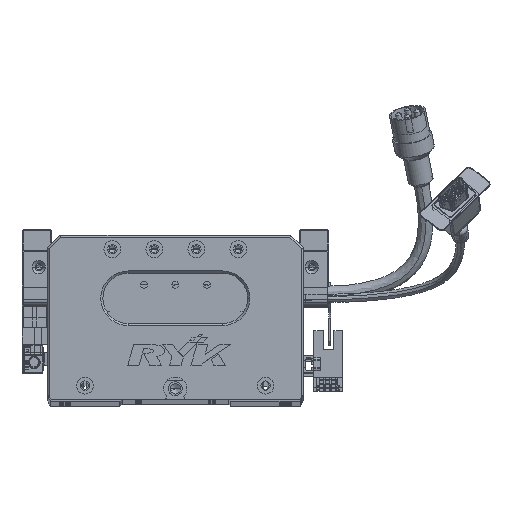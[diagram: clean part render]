
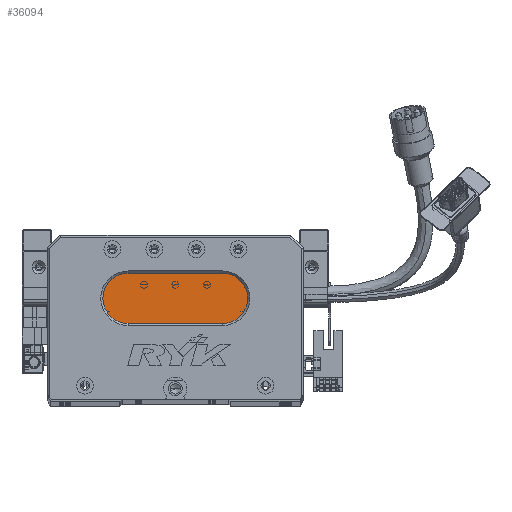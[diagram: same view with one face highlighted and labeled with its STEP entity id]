
A CAD part, top view. The second image highlights one B-rep face of the part: STEP entity #36094.
In plain terms, the highlighted planar face has unit normal (0, 0, 1) as drawn and (0, 0, -1) by its records, which use the part's own axes.
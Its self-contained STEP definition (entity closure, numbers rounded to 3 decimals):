
#164 = CARTESIAN_POINT ( 'NONE',  ( 83.5, 60., 13. ) ) ;
#1328 = CIRCLE ( 'NONE', #80116, 12. ) ;
#4801 = AXIS2_PLACEMENT_3D ( 'NONE', #5042, #55157, #33913 ) ;
#5042 = CARTESIAN_POINT ( 'NONE',  ( 38.5, 48., 13. ) ) ;
#11826 = AXIS2_PLACEMENT_3D ( 'NONE', #44281, #43327, #50655 ) ;
#12099 = ORIENTED_EDGE ( 'NONE', *, *, #29281, .T. ) ;
#16721 = AXIS2_PLACEMENT_3D ( 'NONE', #80157, #37297, #29743 ) ;
#17187 = CARTESIAN_POINT ( 'NONE',  ( 83.5, 48., 13. ) ) ;
#18246 = EDGE_CURVE ( 'NONE', #78951, #75015, #83009, .T. ) ;
#18952 = LINE ( 'NONE', #84415, #59865 ) ;
#24183 = ORIENTED_EDGE ( 'NONE', *, *, #18246, .T. ) ;
#25137 = EDGE_CURVE ( 'NONE', #75015, #56659, #61486, .T. ) ;
#25752 = DIRECTION ( 'NONE',  ( 0., 0., -1. ) ) ;
#26400 = DIRECTION ( 'NONE',  ( 1., 0., 0. ) ) ;
#28084 = EDGE_LOOP ( 'NONE', ( #58616, #24183, #41951, #48332, #12099 ) ) ;
#28827 = FACE_OUTER_BOUND ( 'NONE', #28084, .T. ) ;
#29281 = EDGE_CURVE ( 'NONE', #38078, #36626, #18952, .T. ) ;
#29743 = DIRECTION ( 'NONE',  ( -1., 0., 0. ) ) ;
#33913 = DIRECTION ( 'NONE',  ( -1., 0., 0. ) ) ;
#35526 = CARTESIAN_POINT ( 'NONE',  ( 38.5, 36., 13. ) ) ;
#36094 = ADVANCED_FACE ( 'NONE', ( #28827 ), #37300, .T. ) ;
#36626 = VERTEX_POINT ( 'NONE', #164 ) ;
#37297 = DIRECTION ( 'NONE',  ( 0., 0., -1. ) ) ;
#37300 = PLANE ( 'NONE',  #11826 ) ;
#38078 = VERTEX_POINT ( 'NONE', #80692 ) ;
#38405 = EDGE_CURVE ( 'NONE', #36626, #78951, #1328, .T. ) ;
#38715 = EDGE_CURVE ( 'NONE', #56659, #38078, #50059, .T. ) ;
#41951 = ORIENTED_EDGE ( 'NONE', *, *, #25137, .T. ) ;
#43311 = VECTOR ( 'NONE', #72385, 1000. ) ;
#43327 = DIRECTION ( 'NONE',  ( 0., 0., -1. ) ) ;
#44281 = CARTESIAN_POINT ( 'NONE',  ( 83.5, 48., 13. ) ) ;
#46136 = CARTESIAN_POINT ( 'NONE',  ( 83.5, 36., 13. ) ) ;
#48332 = ORIENTED_EDGE ( 'NONE', *, *, #38715, .T. ) ;
#50059 = CIRCLE ( 'NONE', #4801, 12. ) ;
#50655 = DIRECTION ( 'NONE',  ( -1., 0., 0. ) ) ;
#55157 = DIRECTION ( 'NONE',  ( 0., 0., -1. ) ) ;
#56659 = VERTEX_POINT ( 'NONE', #62131 ) ;
#58616 = ORIENTED_EDGE ( 'NONE', *, *, #38405, .T. ) ;
#59865 = VECTOR ( 'NONE', #26400, 1000. ) ;
#61486 = CIRCLE ( 'NONE', #16721, 12. ) ;
#62131 = CARTESIAN_POINT ( 'NONE',  ( 26.5, 48., 13. ) ) ;
#67985 = DIRECTION ( 'NONE',  ( -1., 0., 0. ) ) ;
#71748 = CARTESIAN_POINT ( 'NONE',  ( 83.5, 36., 13. ) ) ;
#72385 = DIRECTION ( 'NONE',  ( -1., 0., 0. ) ) ;
#75015 = VERTEX_POINT ( 'NONE', #35526 ) ;
#78951 = VERTEX_POINT ( 'NONE', #46136 ) ;
#80116 = AXIS2_PLACEMENT_3D ( 'NONE', #17187, #25752, #67985 ) ;
#80157 = CARTESIAN_POINT ( 'NONE',  ( 38.5, 48., 13. ) ) ;
#80692 = CARTESIAN_POINT ( 'NONE',  ( 38.5, 60., 13. ) ) ;
#83009 = LINE ( 'NONE', #71748, #43311 ) ;
#84415 = CARTESIAN_POINT ( 'NONE',  ( 83.5, 60., 13. ) ) ;
